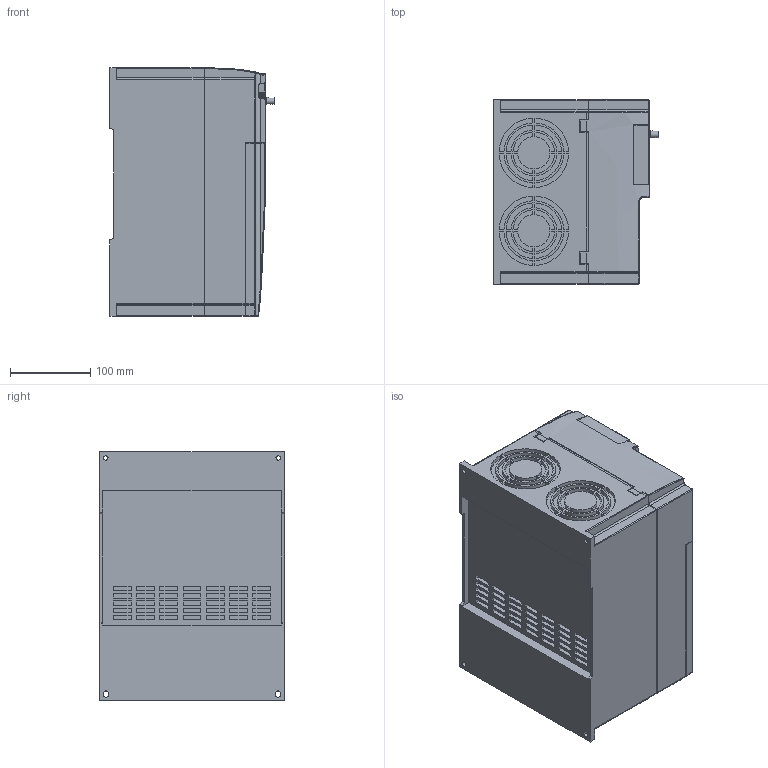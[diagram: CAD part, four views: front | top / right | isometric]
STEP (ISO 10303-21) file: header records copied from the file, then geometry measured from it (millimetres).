
FILE_DESCRIPTION(('STEP AP214'), '1');
FILE_NAME('Ïðåîáðàçîâàòåëü ÷àñòîòû _ MCI-G11P15-4BF', '', ('UNSPECIFIED'), ('UNSPECIFIED'), 'C3D Converter', 'C3D Toolkit', '');
FILE_SCHEMA(('AUTOMOTIVE_DESIGN { 1 0 10303 214 3 1 1}'));
Length unit declared in the file: millimetre
Products named in the file (3): MCI-G11/P15-4BF; MCI-KP-S
Assembly tree (2 placements, depth 2):
  MCI-G11/P15-4BF
    MCI-G11/P15-4BF
    MCI-KP-S
Bounding box: 204.85 x 230 x 310.2 mm (x, y, z)
Volume: 12562273.3 mm3; surface area: 423714.6 mm2
Topology: 2 solids, 2 shells, 1197 faces, 3018 edges, 1978 vertices
Faces by surface type: plane 972, cylinder 160, cone 22, bspline 16, sphere 12, torus 10, extrusion 5
Full cylindrical faces by diameter (mm): 4 x4, 5.5 x2
Entity records: 44354 total; most frequent: CARTESIAN_POINT 12576, ORIENTED_EDGE 5970, DIRECTION 5617, EDGE_CURVE 2985, VECTOR 2531, LINE 2526, VERTEX_POINT 1978, AXIS2_PLACEMENT_3D 1543
